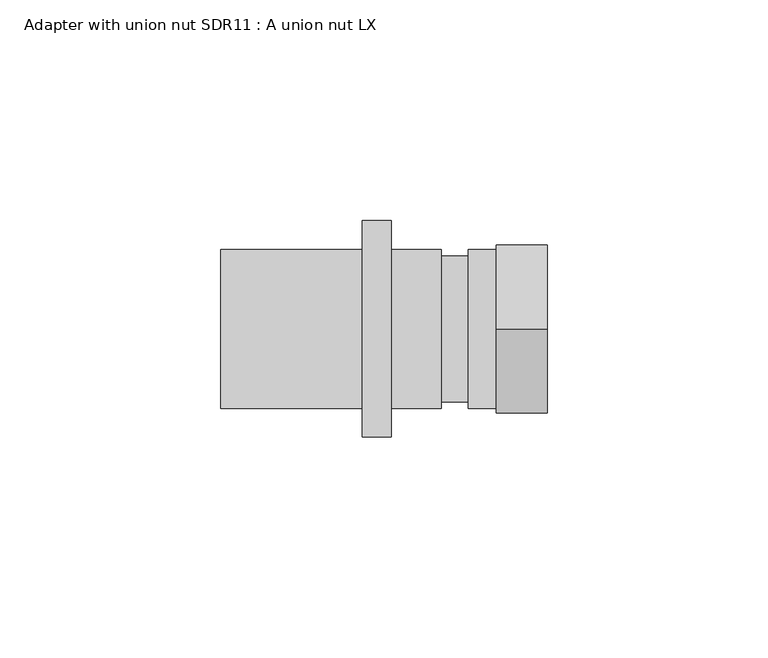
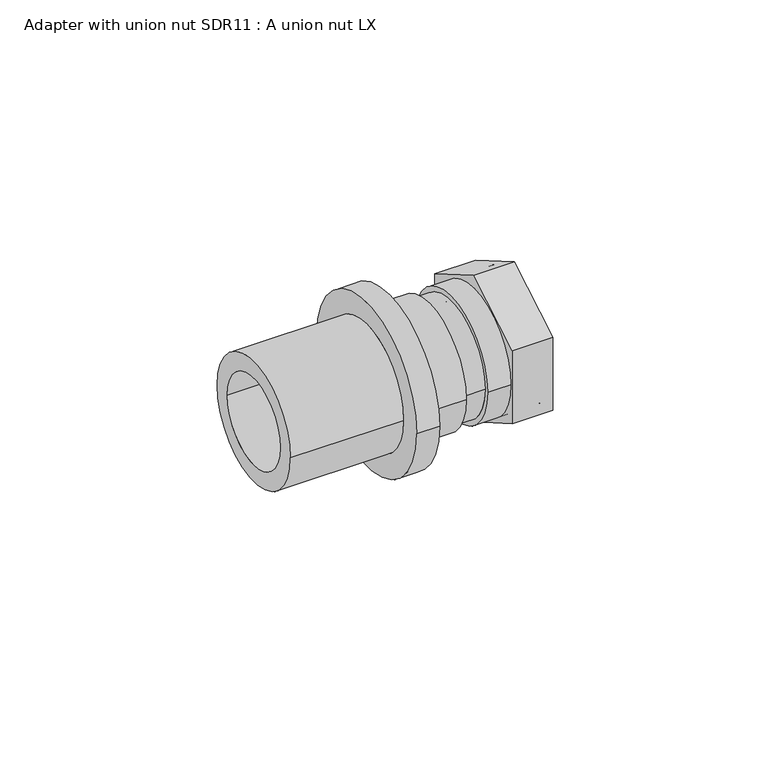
"""IFC4 building model written with IfcOpenShell, lengths in millimetres: pipe fitting geometry, Adapter with union nut SDR11 : A union nut LX."""

from ifc_helpers import new_model, si_unit, frame, origin, place, context, project, spatial, polyline, circle_curve, source, transform, mapped, element, save
from ifc_brep_helpers import plane_surface, cylinder_surface, revolved_surface, advanced_brep


def adapter_with_union_nut_sdr11_a_union_nut_lx_b692c261(model_context):
    return source(origin(), model_context, "Body", "AdvancedBrep", [
        advanced_brep(
        [(24.0, 18.0, 0.0), (24.0, -18.0, 0.0), (6.2, -18.0, 0.0), (6.2, 18.0, 0.0), (6.2, 16.5, 0.0), (6.2, -16.5, 0.0), (0.0, -16.5, 0.0), (0.0, 16.5, 0.0), (0.0, -13.0, 0.0), (0.0, 13.0, 0.0), (9.2, 16.5, 0.0), (9.2, -16.5, 0.0), (24.0, -16.5, 0.0), (24.0, 16.5, 0.0), (9.2, 13.0, 0.0), (9.2, -13.0, 0.0)],
        [
            (0, 1, circle_curve(frame((24.0, 0.0, 0.0), z_axis=(-1.0, 0.0, 0.0), x_axis=(0.0, -1.0, 0.0)), 18.0)),
            (1, 2),
            (2, 3, circle_curve(frame((6.2, 0.0, 0.0), z_axis=(1.0, 0.0, 0.0), x_axis=(0.0, -1.0, 0.0)), 18.0)),
            (3, 0),
            (4, 5, circle_curve(frame((6.2, 0.0, 0.0), z_axis=(-1.0, 0.0, 0.0), x_axis=(0.0, -1.0, 0.0)), 16.5)),
            (5, 6),
            (6, 7, circle_curve(frame((0.0, 0.0, 0.0), z_axis=(1.0, 0.0, 0.0), x_axis=(0.0, -1.0, 0.0)), 16.5)),
            (7, 4),
            (1, 0, circle_curve(frame((24.0, 0.0, 0.0), z_axis=(-1.0, 0.0, 0.0), x_axis=(0.0, 1.0, 0.0)), 18.0)),
            (3, 2, circle_curve(frame((6.2, 0.0, 0.0), z_axis=(1.0, 0.0, 0.0), x_axis=(0.0, 1.0, 0.0)), 18.0)),
            (6, 7, circle_curve(frame((0.0, 0.0, 0.0), z_axis=(-1.0, 0.0, 0.0), x_axis=(0.0, 1.0, 0.0)), 16.5)),
            (8, 9, circle_curve(frame((0.0, 0.0, 0.0), z_axis=(1.0, 0.0, 0.0), x_axis=(0.0, -1.0, 0.0)), 13.0)),
            (9, 8, circle_curve(frame((0.0, 0.0, 0.0), z_axis=(1.0, 0.0, 0.0), x_axis=(0.0, 1.0, 0.0)), 13.0)),
            (5, 4, circle_curve(frame((6.2, 0.0, 0.0), z_axis=(-1.0, 0.0, 0.0), x_axis=(0.0, 1.0, 0.0)), 16.5)),
            (10, 11, circle_curve(frame((9.2, 0.0, 0.0), z_axis=(-1.0, 0.0, 0.0), x_axis=(0.0, -1.0, 0.0)), 16.5)),
            (11, 12),
            (12, 13, circle_curve(frame((24.0, 0.0, 0.0), z_axis=(1.0, 0.0, 0.0), x_axis=(0.0, -1.0, 0.0)), 16.5)),
            (13, 10),
            (12, 13, circle_curve(frame((24.0, 0.0, 0.0), z_axis=(-1.0, 0.0, 0.0), x_axis=(0.0, 1.0, 0.0)), 16.5)),
            (11, 10, circle_curve(frame((9.2, 0.0, 0.0), z_axis=(-1.0, 0.0, 0.0), x_axis=(0.0, 1.0, 0.0)), 16.5)),
            (14, 15, circle_curve(frame((9.2, 0.0, 0.0), z_axis=(-1.0, 0.0, 0.0), x_axis=(0.0, -1.0, 0.0)), 13.0)),
            (15, 14, circle_curve(frame((9.2, 0.0, 0.0), z_axis=(-1.0, 0.0, 0.0), x_axis=(0.0, 1.0, 0.0)), 13.0)),
            (8, 15),
            (14, 9),
        ],
        [
            cylinder_surface(frame((0.0, 0.0, 0.0), z_axis=(1.0, 0.0, 0.0), x_axis=(0.0, -1.0, 0.0)), 18.0),
            cylinder_surface(frame((0.0, 0.0, 0.0), z_axis=(1.0, 0.0, 0.0), x_axis=(0.0, -1.0, 0.0)), 16.5),
            cylinder_surface(frame((0.0, 0.0, 0.0), z_axis=(1.0, 0.0, 0.0), x_axis=(0.0, 1.0, 0.0)), 18.0),
            plane_surface(frame((0.0, 0.0, 0.0), z_axis=(-1.0, 0.0, 0.0), x_axis=(0.0, 1.0, 0.0))),
            cylinder_surface(frame((0.0, 0.0, 0.0), z_axis=(1.0, 0.0, 0.0), x_axis=(0.0, 1.0, 0.0)), 16.5),
            plane_surface(frame((6.2, 0.0, 0.0), z_axis=(-1.0, 0.0, 0.0), x_axis=(0.0, 1.0, 0.0))),
            revolved_surface(polyline([(24.0, -16.5, 0.0), (9.2, -16.5, 0.0)]), (0.0, 0.0, 0.0), (1.0, 0.0, 0.0)),
            plane_surface(frame((24.0, 0.0, 0.0), z_axis=(1.0, 0.0, 0.0), x_axis=(0.0, 1.0, 0.0))),
            revolved_surface(polyline([(24.0, 16.5, 0.0), (9.2, 16.5, 0.0)]), (0.0, 0.0, 0.0), (1.0, 0.0, 0.0)),
            plane_surface(frame((9.2, 0.0, 0.0), z_axis=(1.0, 0.0, 0.0), x_axis=(0.0, 1.0, 0.0))),
            revolved_surface(polyline([(9.2, -13.0, 0.0), (0.0, -13.0, 0.0)]), (0.0, 0.0, 0.0), (1.0, 0.0, 0.0)),
            revolved_surface(polyline([(9.2, 13.0, 0.0), (0.0, 13.0, 0.0)]), (0.0, 0.0, 0.0), (1.0, 0.0, 0.0)),
        ],
        [
            (0, [[1, 2, 3, 4]]),
            (1, [[5, 6, 7, 8]]),
            (2, [[-2, 9, -4, 10]]),
            (3, [[-7, 11], [12, 13]]),
            (4, [[-6, 14, -8, -11]]),
            (5, [[-3, -10], [-5, -14]]),
            (6, [[15, 16, 17, 18]]),
            (7, [[-1, -9], [-17, 19]]),
            (8, [[-16, 20, -18, -19]]),
            (9, [[-15, -20], [21, 22]]),
            (10, [[-12, 23, -21, 24]]),
            (11, [[-23, -13, -24, -22]]),
        ],
    ),
        advanced_brep(
        [(24.0, -19.0, -10.9696551), (12.5, -19.0, -10.9696551), (12.5, 0.0, -21.9393102), (24.0, 0.0, -21.9393102), (12.5, 19.0, -10.9696551), (24.0, 19.0, -10.9696551), (12.5, 19.0, 10.9696551), (24.0, 19.0, 10.9696551), (12.5, 0.0, 21.9393102), (24.0, 0.0, 21.9393102), (12.5, -19.0, 10.9696551), (24.0, -19.0, 10.9696551), (12.5, -13.0, 0.0), (12.5, 13.0, 0.0), (24.0, 18.0, 0.0), (24.0, -18.0, 0.0), (18.25, 18.0, 0.0), (18.25, -18.0, 0.0), (18.25, 13.0, 0.0), (18.25, -13.0, 0.0)],
        [
            (0, 1),
            (1, 2),
            (2, 3),
            (3, 0),
            (2, 4),
            (4, 5),
            (5, 3),
            (4, 6),
            (6, 7),
            (7, 5),
            (6, 8),
            (8, 9),
            (9, 7),
            (8, 10),
            (10, 11),
            (11, 9),
            (1, 10),
            (12, 13, circle_curve(frame((12.5, 0.0, 0.0), z_axis=(1.0, 0.0, 0.0), x_axis=(0.0, -1.0, 0.0)), 13.0)),
            (13, 12, circle_curve(frame((12.5, 0.0, 0.0), z_axis=(1.0, 0.0, 0.0), x_axis=(0.0, -1.0, 0.0)), 13.0)),
            (0, 11),
            (14, 15, circle_curve(frame((24.0, 0.0, 0.0), z_axis=(-1.0, 0.0, 0.0), x_axis=(0.0, -1.0, 0.0)), 18.0)),
            (15, 14, circle_curve(frame((24.0, 0.0, 0.0), z_axis=(-1.0, 0.0, 0.0), x_axis=(0.0, -1.0, 0.0)), 18.0)),
            (16, 17, circle_curve(frame((18.25, 0.0, 0.0), z_axis=(1.0, 0.0, 0.0), x_axis=(0.0, -1.0, 0.0)), 18.0)),
            (17, 16, circle_curve(frame((18.25, 0.0, 0.0), z_axis=(1.0, 0.0, 0.0), x_axis=(0.0, -1.0, 0.0)), 18.0)),
            (18, 19, circle_curve(frame((18.25, 0.0, 0.0), z_axis=(-1.0, 0.0, 0.0), x_axis=(0.0, -1.0, 0.0)), 13.0)),
            (19, 18, circle_curve(frame((18.25, 0.0, 0.0), z_axis=(-1.0, 0.0, 0.0), x_axis=(0.0, -1.0, 0.0)), 13.0)),
            (17, 15),
            (14, 16),
            (18, 13),
            (12, 19),
        ],
        [
            plane_surface(frame((12.5, -19.0, -10.9696551), z_axis=(0.0, -0.5000000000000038, -0.8660254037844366), x_axis=(0.0, 0.8660254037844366, -0.5000000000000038))),
            plane_surface(frame((12.5, 0.0, -21.9393102), z_axis=(0.0, 0.4999999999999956, -0.8660254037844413), x_axis=(0.0, 0.8660254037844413, 0.4999999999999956))),
            plane_surface(frame((12.5, 19.0, -10.9696551), z_axis=(0.0, 1.0, 0.0), x_axis=(0.0, 0.0, 1.0))),
            plane_surface(frame((12.5, 19.0, 10.9696551), z_axis=(0.0, 0.500000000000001, 0.8660254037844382), x_axis=(0.0, -0.8660254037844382, 0.500000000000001))),
            plane_surface(frame((12.5, 0.0, 21.9393102), z_axis=(0.0, -0.4999999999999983, 0.8660254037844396), x_axis=(0.0, -0.8660254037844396, -0.4999999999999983))),
            plane_surface(frame((12.5, 0.0, 0.0), z_axis=(-1.0, 0.0, 0.0), x_axis=(0.0, 0.0, -1.0))),
            plane_surface(frame((12.5, -19.0, 10.9696551), z_axis=(0.0, -1.0, 0.0), x_axis=(0.0, 0.0, -1.0))),
            plane_surface(frame((24.0, -19.0, 10.9696551), z_axis=(1.0, 0.0, 0.0), x_axis=(0.0, 0.0, -1.0))),
            plane_surface(frame((18.25, -18.0, 0.0), z_axis=(1.0, 0.0, 0.0), x_axis=(0.0, 0.0, 1.0))),
            revolved_surface(polyline([(18.25, -18.0, 0.0), (24.0, -18.0, 0.0)]), (45.0991925, 0.0, 0.0), (-1.0, 0.0, 0.0)),
            revolved_surface(polyline([(12.5, -13.0, 0.0), (18.25, -13.0, 0.0)]), (18.25, 0.0, 0.0), (-1.0, 0.0, 0.0)),
        ],
        [
            (0, [[1, 2, 3, 4]]),
            (1, [[-3, 5, 6, 7]]),
            (2, [[-6, 8, 9, 10]]),
            (3, [[-9, 11, 12, 13]]),
            (4, [[-12, 14, 15, 16]]),
            (5, [[-2, 17, -14, -11, -8, -5], [18, 19]]),
            (6, [[-1, 20, -15, -17]]),
            (7, [[-4, -7, -10, -13, -16, -20], [21, 22]]),
            (8, [[23, 24], [25, 26]]),
            (9, [[-24, 27, -21, 28]]),
            (9, [[-23, -28, -22, -27]]),
            (10, [[29, -18, 30, -25]]),
            (10, [[-29, -26, -30, -19]]),
        ],
    ),
        advanced_brep(
        [(-17.8, 18.0, 0.0), (-17.8, -18.0, 0.0), (-49.8, -18.0, 0.0), (-49.8, 18.0, 0.0), (-11.3, 24.5, 0.0), (-11.3, -24.5, 0.0), (-17.8, -24.5, 0.0), (-17.8, 24.5, 0.0), (0.0, 18.0, 0.0), (0.0, -18.0, 0.0), (-11.3, -18.0, 0.0), (-11.3, 18.0, 0.0), (-49.8, 13.0, 0.0), (-49.8, -13.0, 0.0), (-17.8, -13.0, 0.0), (0.0, -13.0, 0.0), (0.0, 13.0, 0.0), (-17.8, 13.0, 0.0)],
        [
            (0, 1, circle_curve(frame((-17.8, 0.0, 0.0), z_axis=(-1.0, 0.0, 0.0), x_axis=(0.0, -1.0, 0.0)), 18.0)),
            (1, 2),
            (2, 3, circle_curve(frame((-49.8, 0.0, 0.0), z_axis=(1.0, 0.0, 0.0), x_axis=(0.0, -1.0, 0.0)), 18.0)),
            (3, 0),
            (4, 5, circle_curve(frame((-11.3, 0.0, 0.0), z_axis=(-1.0, 0.0, 0.0), x_axis=(0.0, -1.0, 0.0)), 24.5)),
            (5, 6),
            (6, 7, circle_curve(frame((-17.8, 0.0, 0.0), z_axis=(1.0, 0.0, 0.0), x_axis=(0.0, -1.0, 0.0)), 24.5)),
            (7, 4),
            (8, 9, circle_curve(frame((0.0, 0.0, 0.0), z_axis=(-1.0, 0.0, 0.0), x_axis=(0.0, -1.0, 0.0)), 18.0)),
            (9, 10),
            (10, 11, circle_curve(frame((-11.3, 0.0, 0.0), z_axis=(1.0, 0.0, 0.0), x_axis=(0.0, -1.0, 0.0)), 18.0)),
            (11, 8),
            (12, 13, circle_curve(frame((-49.8, 0.0, 0.0), z_axis=(-1.0, 0.0, 0.0), x_axis=(0.0, -1.0, 0.0)), 13.0)),
            (13, 14),
            (14, 15),
            (15, 16, circle_curve(frame((0.0, 0.0, 0.0), z_axis=(1.0, 0.0, 0.0), x_axis=(0.0, -1.0, 0.0)), 13.0)),
            (16, 17),
            (17, 12),
            (2, 3, circle_curve(frame((-49.8, 0.0, 0.0), z_axis=(-1.0, 0.0, 0.0), x_axis=(0.0, 1.0, 0.0)), 18.0)),
            (12, 13, circle_curve(frame((-49.8, 0.0, 0.0), z_axis=(1.0, 0.0, 0.0), x_axis=(0.0, 1.0, 0.0)), 13.0)),
            (1, 0, circle_curve(frame((-17.8, 0.0, 0.0), z_axis=(-1.0, 0.0, 0.0), x_axis=(0.0, 1.0, 0.0)), 18.0)),
            (6, 7, circle_curve(frame((-17.8, 0.0, 0.0), z_axis=(-1.0, 0.0, 0.0), x_axis=(0.0, 1.0, 0.0)), 24.5)),
            (5, 4, circle_curve(frame((-11.3, 0.0, 0.0), z_axis=(-1.0, 0.0, 0.0), x_axis=(0.0, 1.0, 0.0)), 24.5)),
            (10, 11, circle_curve(frame((-11.3, 0.0, 0.0), z_axis=(-1.0, 0.0, 0.0), x_axis=(0.0, 1.0, 0.0)), 18.0)),
            (9, 8, circle_curve(frame((0.0, 0.0, 0.0), z_axis=(-1.0, 0.0, 0.0), x_axis=(0.0, 1.0, 0.0)), 18.0)),
            (15, 16, circle_curve(frame((0.0, 0.0, 0.0), z_axis=(-1.0, 0.0, 0.0), x_axis=(0.0, 1.0, 0.0)), 13.0)),
        ],
        [
            cylinder_surface(frame((0.0, 0.0, 0.0), z_axis=(1.0, 0.0, 0.0), x_axis=(0.0, -1.0, 0.0)), 18.0),
            cylinder_surface(frame((0.0, 0.0, 0.0), z_axis=(1.0, 0.0, 0.0), x_axis=(0.0, -1.0, 0.0)), 24.5),
            revolved_surface(polyline([(0.0, -13.0, 0.0), (-49.8, -13.0, 0.0)]), (0.0, 0.0, 0.0), (1.0, 0.0, 0.0)),
            plane_surface(frame((-49.8, 0.0, 0.0), z_axis=(-1.0, 0.0, 0.0), x_axis=(0.0, 1.0, 0.0))),
            cylinder_surface(frame((0.0, 0.0, 0.0), z_axis=(1.0, 0.0, 0.0), x_axis=(0.0, 1.0, 0.0)), 18.0),
            plane_surface(frame((-17.8, 0.0, 0.0), z_axis=(-1.0, 0.0, 0.0), x_axis=(0.0, 1.0, 0.0))),
            cylinder_surface(frame((0.0, 0.0, 0.0), z_axis=(1.0, 0.0, 0.0), x_axis=(0.0, 1.0, 0.0)), 24.5),
            plane_surface(frame((-11.3, 0.0, 0.0), z_axis=(1.0, 0.0, 0.0), x_axis=(0.0, 1.0, 0.0))),
            plane_surface(frame((0.0, 0.0, 0.0), z_axis=(1.0, 0.0, 0.0), x_axis=(0.0, 1.0, 0.0))),
            revolved_surface(polyline([(0.0, 13.0, 0.0), (-49.8, 13.0, 0.0)]), (0.0, 0.0, 0.0), (1.0, 0.0, 0.0)),
        ],
        [
            (0, [[1, 2, 3, 4]]),
            (1, [[5, 6, 7, 8]]),
            (0, [[9, 10, 11, 12]]),
            (2, [[13, 14, 15, 16, 17, 18]]),
            (3, [[-3, 19], [-13, 20]]),
            (4, [[-2, 21, -4, -19]]),
            (5, [[-7, 22], [-1, -21]]),
            (6, [[-6, 23, -8, -22]]),
            (7, [[-5, -23], [-11, 24]]),
            (4, [[-10, 25, -12, -24]]),
            (8, [[-9, -25], [-16, 26]]),
            (9, [[-20, -18, -17, -26, -15, -14]]),
        ],
    ),
    ])


if __name__ == "__main__":
    model = new_model("IFC4")
    model_context = context("Model", 3, world=origin())
    ifc_project = project(units=[si_unit("LENGTHUNIT", "METRE", prefix="MILLI")], contexts=[model_context])
    site = spatial("IfcSite", under=ifc_project)
    building = spatial("IfcBuilding", under=site)
    placement = place(None, origin())
    adapter_with_union_nut_sdr11_a_union_nut_lx_shape = adapter_with_union_nut_sdr11_a_union_nut_lx_b692c261(model_context)
    element("IfcPipeFitting", 1, ObjectType="Adapter with union nut SDR11 : A union nut LX", at=placement, inside=building, context=model_context, shape_type="MappedRepresentation", body=[
        mapped(adapter_with_union_nut_sdr11_a_union_nut_lx_shape, transform((0.0, 0.0, 0.0), x_axis=(1.0, 0.0, 0.0), y_axis=(0.0, 1.0, 0.0), z_axis=(0.0, 0.0, 1.0))),
    ])
    save(model, "model.ifc")
